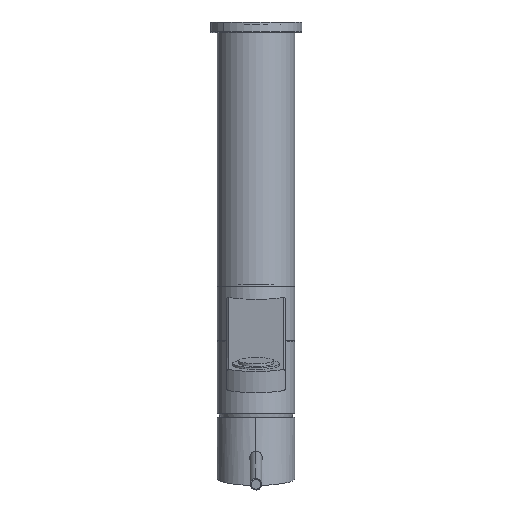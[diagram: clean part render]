
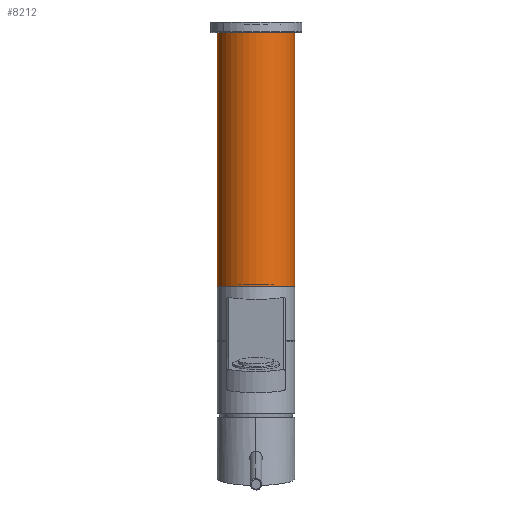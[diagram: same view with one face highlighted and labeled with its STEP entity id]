
A CAD part, front view. The second image highlights one B-rep face of the part: STEP entity #8212.
In plain terms, the highlighted cylindrical face has radius 20 mm (diameter 40 mm), a partial arc.
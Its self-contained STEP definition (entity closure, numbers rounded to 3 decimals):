
#101 = ORIENTED_EDGE ( 'NONE', *, *, #11769, .T. ) ;
#181 = LINE ( 'NONE', #1470, #2286 ) ;
#793 = EDGE_CURVE ( 'NONE', #2038, #2407, #6122, .T. ) ;
#1470 = CARTESIAN_POINT ( 'NONE',  ( 20., 0., 130. ) ) ;
#1546 = CYLINDRICAL_SURFACE ( 'NONE', #11631, 20. ) ;
#1698 = ORIENTED_EDGE ( 'NONE', *, *, #10015, .F. ) ;
#2038 = VERTEX_POINT ( 'NONE', #4912 ) ;
#2253 = DIRECTION ( 'NONE',  ( 1., 0., 0. ) ) ;
#2286 = VECTOR ( 'NONE', #10254, 1000. ) ;
#2407 = VERTEX_POINT ( 'NONE', #13301 ) ;
#2771 = VERTEX_POINT ( 'NONE', #10563 ) ;
#2917 = CARTESIAN_POINT ( 'NONE',  ( 0., 0., 130. ) ) ;
#3548 = DIRECTION ( 'NONE',  ( 0., 0., 1. ) ) ;
#3728 = DIRECTION ( 'NONE',  ( 0., 0., -1. ) ) ;
#4105 = EDGE_LOOP ( 'NONE', ( #5915, #1698, #101, #9721 ) ) ;
#4275 = AXIS2_PLACEMENT_3D ( 'NONE', #2917, #8251, #10452 ) ;
#4912 = CARTESIAN_POINT ( 'NONE',  ( -20., 0., 0. ) ) ;
#5329 = VECTOR ( 'NONE', #13692, 1000. ) ;
#5527 = FACE_OUTER_BOUND ( 'NONE', #4105, .T. ) ;
#5915 = ORIENTED_EDGE ( 'NONE', *, *, #6539, .F. ) ;
#6122 = CIRCLE ( 'NONE', #13683, 20. ) ;
#6539 = EDGE_CURVE ( 'NONE', #11776, #2407, #181, .T. ) ;
#7026 = CARTESIAN_POINT ( 'NONE',  ( 20., 0., 130. ) ) ;
#8212 = ADVANCED_FACE ( 'NONE', ( #5527 ), #1546, .T. ) ;
#8251 = DIRECTION ( 'NONE',  ( 0., 0., 1. ) ) ;
#8269 = LINE ( 'NONE', #11464, #5329 ) ;
#8283 = CARTESIAN_POINT ( 'NONE',  ( 0., 0., 130. ) ) ;
#9721 = ORIENTED_EDGE ( 'NONE', *, *, #793, .T. ) ;
#10015 = EDGE_CURVE ( 'NONE', #2771, #11776, #11019, .T. ) ;
#10163 = CARTESIAN_POINT ( 'NONE',  ( 0., 0., 0. ) ) ;
#10254 = DIRECTION ( 'NONE',  ( 0., 0., -1. ) ) ;
#10452 = DIRECTION ( 'NONE',  ( 1., 0., 0. ) ) ;
#10563 = CARTESIAN_POINT ( 'NONE',  ( -20., 0., 130. ) ) ;
#11019 = CIRCLE ( 'NONE', #4275, 20. ) ;
#11464 = CARTESIAN_POINT ( 'NONE',  ( -20., 0., 130. ) ) ;
#11631 = AXIS2_PLACEMENT_3D ( 'NONE', #8283, #3728, #12556 ) ;
#11769 = EDGE_CURVE ( 'NONE', #2771, #2038, #8269, .T. ) ;
#11776 = VERTEX_POINT ( 'NONE', #7026 ) ;
#12556 = DIRECTION ( 'NONE',  ( -1., 0., 0. ) ) ;
#13301 = CARTESIAN_POINT ( 'NONE',  ( 20., 0., 0. ) ) ;
#13683 = AXIS2_PLACEMENT_3D ( 'NONE', #10163, #3548, #2253 ) ;
#13692 = DIRECTION ( 'NONE',  ( 0., 0., -1. ) ) ;
